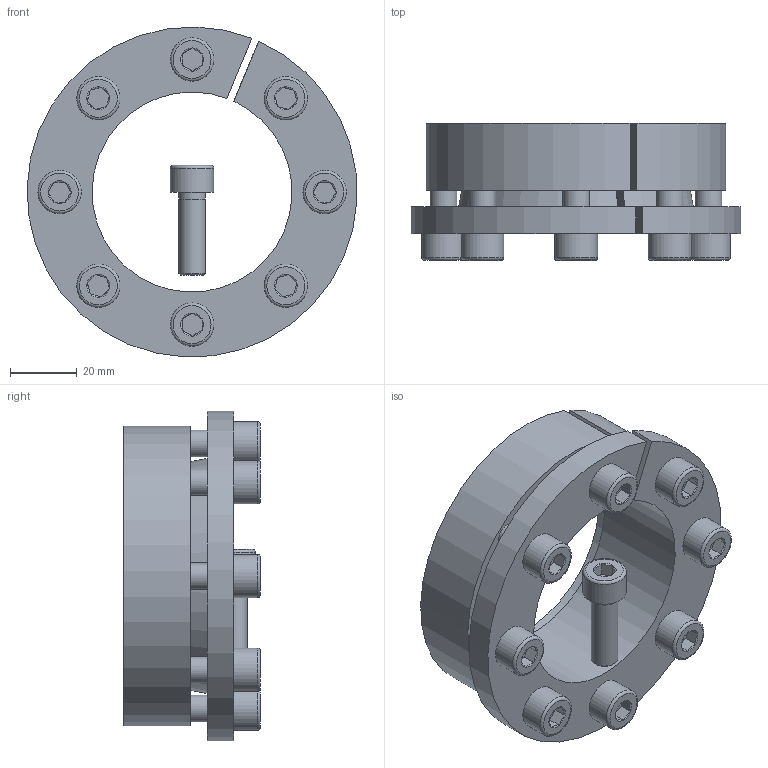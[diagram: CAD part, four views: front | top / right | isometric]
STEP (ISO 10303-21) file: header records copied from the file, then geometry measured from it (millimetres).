
FILE_DESCRIPTION( ( 'Unknown' ), '1' );
FILE_NAME( 'C:/Dokumente und Einstellungen/Sven/Desktop/homepage/cad - homepage/KBS16/KBS 16 - 60 x 90.stp', 'Unknown', ( 'Unknown' ), ( 'Unknown' ), 'XStep 1.0', 'Unknown', ' ' );
FILE_SCHEMA( ( 'automotive_design' ) );
Length unit declared in the file: millimetre
Products named in the file (3): Assem1; KBS 16 - 60 x 90; ISO EN DIN 4762 M8x25
Bounding box: 98.89 x 41 x 98.93 mm (x, y, z)
Volume: 223109.6 mm3; surface area: 82039.4 mm2
Topology: 11 solids, 11 shells, 281 faces, 557 edges, 334 vertices
Faces by surface type: plane 122, cylinder 74, cone 67, torus 18
Full cylindrical faces by diameter (mm): 7 x9, 8 x50, 13 x9
Entity records: 1798 total; most frequent: CARTESIAN_POINT 293, DIRECTION 272, ORIENTED_EDGE 194, AXIS2_PLACEMENT_3D 122, EDGE_LOOP 112, EDGE_CURVE 97, FACE_OUTER_BOUND 75, VERTEX_POINT 75
